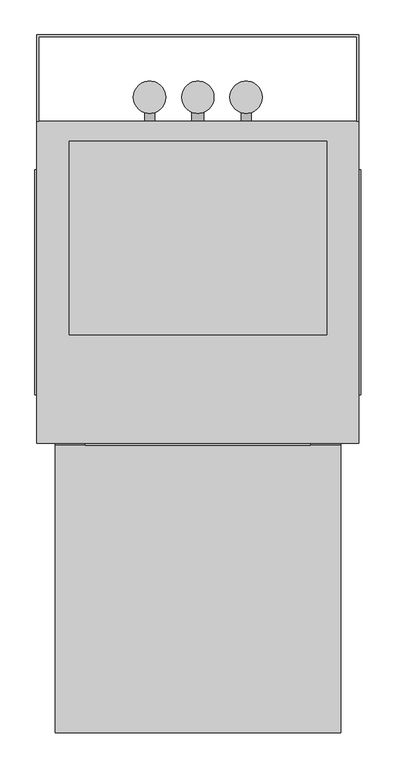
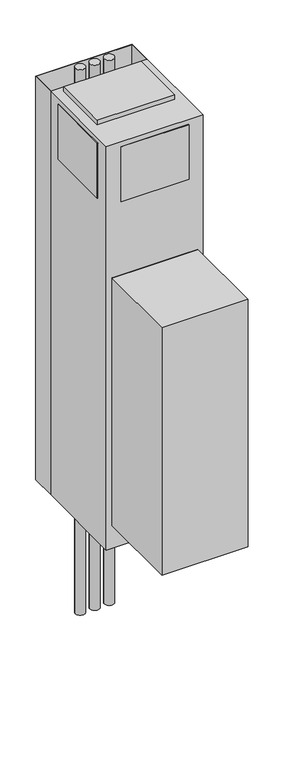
"""IFC4 building model written with IfcOpenShell, lengths in millimetres: proxy geometry, Exposed_Modular_Fan_Coil_Unit_-_MXY_-_IEC_-_2-Pipe_Cool-EHeat_-_WithRisers_2022 : Size 06 - 277v/60Hz/1Ph - 4 Row 6.0kW."""

from ifc_helpers import new_model, si_unit, point, frame, frame_2d, origin, origin_with_axes, place, context, project, spatial, polyline, circle_curve, trimmed, segment, composite_curve, outline, extrude, source, transform, mapped, element, save


def mechanical_equipment_057af850(model_context):
    return source(origin(), model_context, "Body", "SweptSolid", [
        extrude(outline(polyline([(1356.1480703, 516.0118862), (1346.2, 548.1852728), (1488.3709244, 548.1852728), (1465.3489183, 516.0118862), (1356.1480703, 516.0118862)])), frame((0.0, -269.875, 0.0), z_axis=(0.0, 1.0, 0.0), x_axis=(0.0, 0.0, 1.0)), (0.0, 0.0, 1.0), 3.175),
        extrude(outline(polyline([(1435.1473557, 554.9436058), (1431.9449632, 581.025), (1461.1738042, 581.025), (1469.2382193, 554.9436058), (1435.1473557, 554.9436058)])), frame((0.0, -269.875, 0.0), z_axis=(0.0, 1.0, 0.0), x_axis=(0.0, 0.0, 1.0)), (0.0, 0.0, 1.0), 3.175),
        extrude(outline(polyline([(1383.2838288, 581.025), (1379.6183279, 554.9436058), (1346.2, 554.9436058), (1354.8342372, 581.025), (1383.2838288, 581.025)])), frame((0.0, -269.875, 0.0), z_axis=(0.0, 1.0, 0.0), x_axis=(0.0, 0.0, 1.0)), (0.0, 0.0, 1.0), 3.175),
        extrude(outline(polyline([(1422.5989903, 581.025), (1424.8808166, 554.9436058), (1388.9432681, 554.9436058), (1391.6845331, 581.025), (1422.5989903, 581.025)])), frame((0.0, -269.875, 0.0), z_axis=(0.0, 1.0, 0.0), x_axis=(0.0, 0.0, 1.0)), (0.0, 0.0, 1.0), 3.175),
        extrude(outline(composite_curve([segment(trimmed(circle_curve(frame_2d((330.2, 282.575)), 25.4), [point((355.6, 282.575))], [point((304.8, 282.575))], False, "CARTESIAN"), True, "CONTINUOUS"), segment(trimmed(circle_curve(frame_2d((330.2, 282.575)), 25.4), [point((304.8, 282.575))], [point((355.6, 282.575))], False, "CARTESIAN"), True, "CONTINUOUS")], self_intersect=False)), frame((0.0, 0.0, -736.6), z_axis=(0.0, 0.0, 1.0), x_axis=(1.0, 0.0, 0.0)), (0.0, 0.0, 1.0), 3022.6),
        extrude(outline(composite_curve([segment(trimmed(circle_curve(frame_2d((406.4, 282.575)), 25.4), [point((431.8, 282.575))], [point((381.0, 282.575))], False, "CARTESIAN"), True, "CONTINUOUS"), segment(trimmed(circle_curve(frame_2d((406.4, 282.575)), 25.4), [point((381.0, 282.575))], [point((431.8, 282.575))], False, "CARTESIAN"), True, "CONTINUOUS")], self_intersect=False)), frame((0.0, 0.0, -736.6), z_axis=(0.0, 0.0, 1.0), x_axis=(1.0, 0.0, 0.0)), (0.0, 0.0, 1.0), 3022.6),
        extrude(outline(composite_curve([segment(trimmed(circle_curve(frame_2d((482.6, 282.575)), 25.4), [point((508.0, 282.575))], [point((457.2, 282.575))], False, "CARTESIAN"), True, "CONTINUOUS"), segment(trimmed(circle_curve(frame_2d((482.6, 282.575)), 25.4), [point((457.2, 282.575))], [point((508.0, 282.575))], False, "CARTESIAN"), True, "CONTINUOUS")], self_intersect=False)), frame((0.0, 0.0, -736.6), z_axis=(0.0, 0.0, 1.0), x_axis=(1.0, 0.0, 0.0)), (0.0, 0.0, 1.0), 3022.6),
        extrude(outline(polyline([(631.825, -266.7), (631.825, -720.725), (180.975, -720.725), (180.975, -266.7), (631.825, -266.7)])), frame((0.0, 0.0, 127.0), z_axis=(0.0, 0.0, 1.0), x_axis=(1.0, 0.0, 0.0)), (0.0, 0.0, 1.0), 1371.6),
        extrude(outline(polyline([(152.4, 381.0), (660.4, 381.0), (660.4, 244.475), (657.225, 244.475), (657.225, 377.825), (155.575, 377.825), (155.575, 244.475), (152.4, 244.475), (152.4, 381.0)])), origin_with_axes(), (0.0, 0.0, 1.0), 2235.2),
        extrude(outline(composite_curve([segment(trimmed(circle_curve(frame_2d((990.6, 482.6)), 7.9375), [point((990.6, 490.5375))], [point((990.6, 474.6625))], False, "CARTESIAN"), True, "CONTINUOUS"), segment(trimmed(circle_curve(frame_2d((990.6, 482.6)), 7.9375), [point((990.6, 474.6625))], [point((990.6, 490.5375))], False, "CARTESIAN"), True, "CONTINUOUS")], self_intersect=False)), frame((0.0, 244.475, 0.0), z_axis=(0.0, 1.0, 0.0), x_axis=(0.0, 0.0, 1.0)), (0.0, 0.0, 1.0), 25.4),
        extrude(outline(composite_curve([segment(trimmed(circle_curve(frame_2d((990.6, 330.2)), 7.9375), [point((990.6, 338.1375))], [point((990.6, 322.2625))], False, "CARTESIAN"), True, "CONTINUOUS"), segment(trimmed(circle_curve(frame_2d((990.6, 330.2)), 7.9375), [point((990.6, 322.2625))], [point((990.6, 338.1375))], False, "CARTESIAN"), True, "CONTINUOUS")], self_intersect=False)), frame((0.0, 244.475, 0.0), z_axis=(0.0, 1.0, 0.0), x_axis=(0.0, 0.0, 1.0)), (0.0, 0.0, 1.0), 25.4),
        extrude(outline(composite_curve([segment(trimmed(circle_curve(frame_2d((127.0, 406.4)), 9.525), [point((127.0, 415.925))], [point((127.0, 396.875))], False, "CARTESIAN"), True, "CONTINUOUS"), segment(trimmed(circle_curve(frame_2d((127.0, 406.4)), 9.525), [point((127.0, 396.875))], [point((127.0, 415.925))], False, "CARTESIAN"), True, "CONTINUOUS")], self_intersect=False)), frame((0.0, 244.475, 0.0), z_axis=(0.0, 1.0, 0.0), x_axis=(0.0, 0.0, 1.0)), (0.0, 0.0, 1.0), 25.4),
        extrude(outline(polyline([(631.825, -266.7), (180.975, -266.7), (180.975, -263.525), (631.825, -263.525), (631.825, -266.7)])), frame((0.0, 0.0, 127.0), z_axis=(0.0, 0.0, 1.0), x_axis=(1.0, 0.0, 0.0)), (0.0, 0.0, 1.0), 1371.6),
        extrude(outline(polyline([(663.575, 168.275), (663.575, -187.325), (660.4, -187.325), (660.4, 168.275), (663.575, 168.275)])), frame((0.0, 0.0, 1905.0), z_axis=(0.0, 0.0, 1.0), x_axis=(1.0, 0.0, 0.0)), (0.0, 0.0, 1.0), 304.8),
        extrude(outline(polyline([(149.225, -187.325), (149.225, 168.275), (152.4, 168.275), (152.4, -187.325), (149.225, -187.325)])), frame((0.0, 0.0, 1905.0), z_axis=(0.0, 0.0, 1.0), x_axis=(1.0, 0.0, 0.0)), (0.0, 0.0, 1.0), 304.8),
        extrude(outline(polyline([(584.2, -266.7), (228.6, -266.7), (228.6, -263.525), (584.2, -263.525), (584.2, -266.7)])), frame((0.0, 0.0, 1905.0), z_axis=(0.0, 0.0, 1.0), x_axis=(1.0, 0.0, 0.0)), (0.0, 0.0, 1.0), 304.8),
        extrude(outline(polyline([(609.6, 212.725), (609.6, -92.075), (203.2, -92.075), (203.2, 212.725), (609.6, 212.725)])), frame((0.0, 0.0, 2235.2), z_axis=(0.0, 0.0, 1.0), x_axis=(1.0, 0.0, 0.0)), (0.0, 0.0, 1.0), 25.4),
        extrude(outline(polyline([(660.4, 244.475), (660.4, -263.525), (152.4, -263.525), (152.4, 244.475), (660.4, 244.475)])), origin_with_axes(), (0.0, 0.0, 1.0), 2235.2),
    ])


if __name__ == "__main__":
    model = new_model("IFC4")
    model_context = context("Model", 3, world=origin())
    ifc_project = project(units=[si_unit("LENGTHUNIT", "METRE", prefix="MILLI")], contexts=[model_context])
    site = spatial("IfcSite", under=ifc_project)
    building = spatial("IfcBuilding", under=site)
    placement = place(None, origin())
    mechanical_equipment_shape = mechanical_equipment_057af850(model_context)
    element("IfcBuildingElementProxy", 1, Name="Exposed_Modular_Fan_Coil_Unit_-_MXY_-_IEC_-_2-Pipe_Cool-EHeat_-_WithRisers_2022 : Size 06 - 277v/60Hz/1Ph - 4 Row 6.0kW", ObjectType="Exposed_Modular_Fan_Coil_Unit_-_MXY_-_IEC_-_2-Pipe_Cool-EHeat_-_WithRisers_2022 : Size 06 - 277v/60Hz/1Ph - 4 Row 6.0kW", at=placement, inside=building, context=model_context, shape_type="MappedRepresentation", body=[
        mapped(mechanical_equipment_shape, transform((0.0, 0.0, 0.0), x_axis=(1.0, 0.0, 0.0), y_axis=(0.0, 1.0, 0.0), z_axis=(0.0, 0.0, 1.0))),
    ])
    save(model, "model.ifc")
